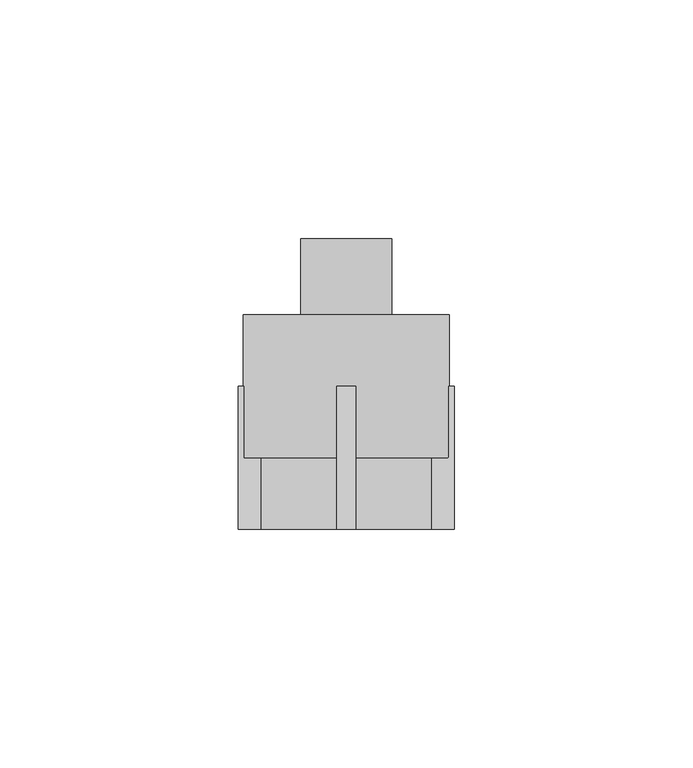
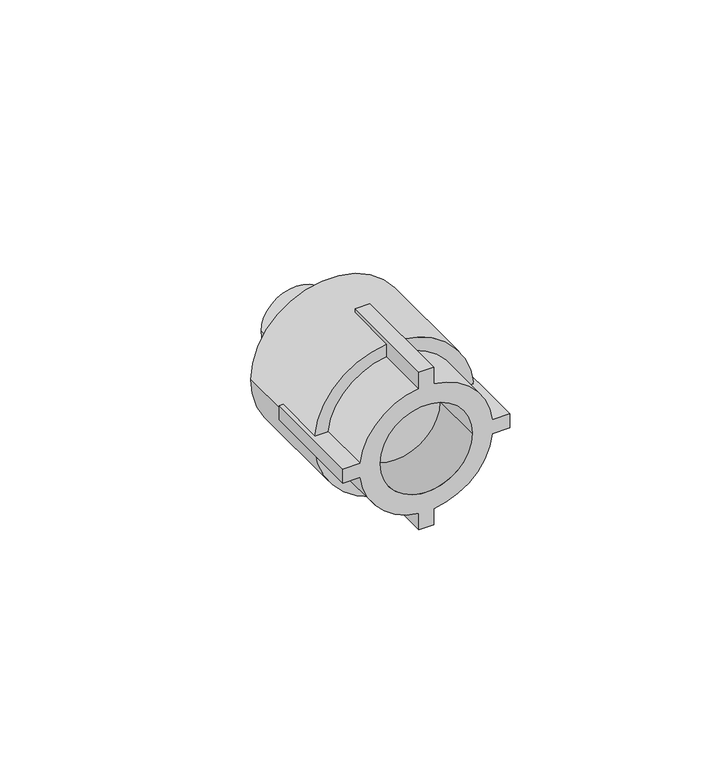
"""IFC4 building model written with IfcOpenShell, lengths in millimetres: pipe fitting geometry, EGB_VASEN_ PPR_Entronque rosca macho WXR101 : Entronque rosca macho WXR101."""

from ifc_helpers import new_model, si_unit, point, frame, origin, origin_2d, place, context, project, spatial, polyline, circle_curve, trimmed, segment, composite_curve, outline, extrude, source, transform, mapped, element, save
from ifc_brep_helpers import plane_surface, cylinder_surface, revolved_surface, advanced_brep


def pipe_fitting_a16b70e2(model_context):
    return source(origin(), model_context, "Body", "SolidModel", [
        advanced_brep(
        [(2.0, -15.0, 22.6), (-2.0, -15.0, 22.6), (-2.0, -15.0, 17.8885438), (-17.8885438, -15.0, 2.0), (-22.6, -15.0, 2.0), (-22.6, -15.0, -2.0), (-17.8885438, -15.0, -2.0), (-2.0, -15.0, -17.8885438), (-2.0, -15.0, -22.6), (2.0, -15.0, -22.6), (2.0, -15.0, -17.8885438), (17.8885438, -15.0, -2.0), (22.6, -15.0, -2.0), (22.6, -15.0, 2.0), (17.8885438, -15.0, 2.0), (2.0, -15.0, 17.8885438), (-12.5, -15.0, 0.0), (12.5, -15.0, 0.0), (-2.0, 15.0, 22.6), (2.0, 15.0, 22.6), (2.0, 15.0, 21.5072081), (-2.0, 15.0, 21.5072081), (2.0, 15.0, -22.6), (-2.0, 15.0, -22.6), (-2.0, 15.0, -21.5072081), (2.0, 15.0, -21.5072081), (22.6, 15.0, 2.0), (22.6, 15.0, -2.0), (21.5072081, 15.0, -2.0), (21.6, 15.0, 0.0), (21.5072081, 15.0, 2.0), (-22.6, 15.0, -2.0), (-22.6, 15.0, 2.0), (-21.5072081, 15.0, 2.0), (-21.6, 15.0, 0.0), (-21.5072081, 15.0, -2.0), (2.0, 0.0, 17.8885438), (2.0, 0.0, 21.5072081), (-2.0, 0.0, 21.5072081), (-2.0, 0.0, 17.8885438), (2.0, 0.0, -21.5072081), (2.0, 0.0, -17.8885438), (-2.0, 0.0, -17.8885438), (-2.0, 0.0, -21.5072081), (17.8885438, 0.0, -2.0), (21.5072081, 0.0, -2.0), (21.5072081, 0.0, 2.0), (17.8885438, 0.0, 2.0), (-21.5072081, 0.0, -2.0), (-17.8885438, 0.0, -2.0), (-17.8885438, 0.0, 2.0), (-21.5072081, 0.0, 2.0), (-12.5, 0.0, 0.0), (12.5, 0.0, 0.0), (-21.6, 30.0, 0.0), (21.6, 30.0, 0.0)],
        [
            (0, 1),
            (1, 2),
            (2, 3, circle_curve(frame((0.0, -15.0, 0.0), z_axis=(0.0, -1.0, 0.0), x_axis=(1.0, 0.0, 0.0)), 18.0)),
            (3, 4),
            (4, 5),
            (5, 6),
            (6, 7, circle_curve(frame((0.0, -15.0, 0.0), z_axis=(0.0, -1.0, 0.0), x_axis=(1.0, 0.0, 0.0)), 18.0)),
            (7, 8),
            (8, 9),
            (9, 10),
            (10, 11, circle_curve(frame((0.0, -15.0, 0.0), z_axis=(0.0, -1.0, 0.0), x_axis=(1.0, 0.0, 0.0)), 18.0)),
            (11, 12),
            (12, 13),
            (13, 14),
            (14, 15, circle_curve(frame((0.0, -15.0, 0.0), z_axis=(0.0, -1.0, 0.0), x_axis=(1.0, 0.0, 0.0)), 18.0)),
            (15, 0),
            (16, 17, circle_curve(frame((0.0, -15.0, 0.0), z_axis=(0.0, 1.0, 0.0), x_axis=(1.0, 0.0, 0.0)), 12.5)),
            (17, 16, circle_curve(frame((0.0, -15.0, 0.0), z_axis=(0.0, 1.0, 0.0), x_axis=(1.0, 0.0, 0.0)), 12.5)),
            (18, 19),
            (19, 20),
            (20, 21, circle_curve(frame((0.0, 15.0, 0.0), z_axis=(0.0, -1.0, 0.0), x_axis=(1.0, 0.0, 0.0)), 21.6)),
            (21, 18),
            (22, 23),
            (23, 24),
            (24, 25, circle_curve(frame((0.0, 15.0, 0.0), z_axis=(0.0, -1.0, 0.0), x_axis=(1.0, 0.0, 0.0)), 21.6)),
            (25, 22),
            (26, 27),
            (27, 28),
            (28, 29, circle_curve(frame((0.0, 15.0, 0.0), z_axis=(0.0, -1.0, 0.0), x_axis=(1.0, 0.0, 0.0)), 21.6)),
            (29, 30, circle_curve(frame((0.0, 15.0, 0.0), z_axis=(0.0, -1.0, 0.0), x_axis=(1.0, 0.0, 0.0)), 21.6)),
            (30, 26),
            (31, 32),
            (32, 33),
            (33, 34, circle_curve(frame((0.0, 15.0, 0.0), z_axis=(0.0, -1.0, 0.0), x_axis=(1.0, 0.0, 0.0)), 21.6)),
            (34, 35, circle_curve(frame((0.0, 15.0, 0.0), z_axis=(0.0, -1.0, 0.0), x_axis=(1.0, 0.0, 0.0)), 21.6)),
            (35, 31),
            (19, 0),
            (15, 36),
            (36, 37),
            (37, 20),
            (18, 1),
            (21, 38),
            (38, 39),
            (39, 2),
            (8, 23),
            (22, 9),
            (25, 40),
            (40, 41),
            (41, 10),
            (7, 42),
            (42, 43),
            (43, 24),
            (27, 12),
            (11, 44),
            (44, 45),
            (45, 28),
            (26, 13),
            (30, 46),
            (46, 47),
            (47, 14),
            (5, 31),
            (35, 48),
            (48, 49),
            (49, 6),
            (32, 4),
            (3, 50),
            (50, 51),
            (51, 33),
            (49, 42, circle_curve(frame((0.0, 0.0, 0.0), z_axis=(0.0, -1.0, 0.0), x_axis=(1.0, 0.0, 0.0)), 18.0)),
            (41, 44, circle_curve(frame((0.0, 0.0, 0.0), z_axis=(0.0, -1.0, 0.0), x_axis=(1.0, 0.0, 0.0)), 18.0)),
            (39, 50, circle_curve(frame((0.0, 0.0, 0.0), z_axis=(0.0, -1.0, 0.0), x_axis=(1.0, 0.0, 0.0)), 18.0)),
            (47, 36, circle_curve(frame((0.0, 0.0, 0.0), z_axis=(0.0, -1.0, 0.0), x_axis=(1.0, 0.0, 0.0)), 18.0)),
            (16, 52),
            (52, 53, circle_curve(frame((0.0, 0.0, 0.0), z_axis=(0.0, 1.0, 0.0), x_axis=(1.0, 0.0, 0.0)), 12.5)),
            (53, 17),
            (53, 52, circle_curve(frame((0.0, 0.0, 0.0), z_axis=(0.0, 1.0, 0.0), x_axis=(1.0, 0.0, 0.0)), 12.5)),
            (40, 45, circle_curve(frame((0.0, 0.0, 0.0), z_axis=(0.0, -1.0, 0.0), x_axis=(1.0, 0.0, 0.0)), 21.6)),
            (48, 43, circle_curve(frame((0.0, 0.0, 0.0), z_axis=(0.0, -1.0, 0.0), x_axis=(1.0, 0.0, 0.0)), 21.6)),
            (46, 37, circle_curve(frame((0.0, 0.0, 0.0), z_axis=(0.0, -1.0, 0.0), x_axis=(1.0, 0.0, 0.0)), 21.6)),
            (38, 51, circle_curve(frame((0.0, 0.0, 0.0), z_axis=(0.0, -1.0, 0.0), x_axis=(1.0, 0.0, 0.0)), 21.6)),
            (54, 55, circle_curve(frame((0.0, 30.0, 0.0), z_axis=(0.0, 1.0, 0.0), x_axis=(1.0, 0.0, 0.0)), 21.6)),
            (55, 54, circle_curve(frame((0.0, 30.0, 0.0), z_axis=(0.0, 1.0, 0.0), x_axis=(1.0, 0.0, 0.0)), 21.6)),
            (55, 29),
            (34, 54),
        ],
        [
            plane_surface(frame((0.0, -15.0, 0.0), z_axis=(0.0, -1.0, 0.0), x_axis=(0.0, 0.0, 1.0))),
            plane_surface(frame((0.0, 15.0, 0.0), z_axis=(0.0, 1.0, 0.0), x_axis=(0.0, 0.0, 1.0))),
            plane_surface(frame((2.0, -15.0, 17.0), z_axis=(1.0, 0.0, 0.0), x_axis=(0.0, 1.0, 0.0))),
            plane_surface(frame((2.0, -15.0, 22.6), z_axis=(0.0, 0.0, 1.0), x_axis=(0.0, 1.0, 0.0))),
            plane_surface(frame((-2.0, -15.0, 22.6), z_axis=(-1.0, 0.0, 0.0), x_axis=(0.0, 1.0, 0.0))),
            plane_surface(frame((-2.0, -15.0, -22.6), z_axis=(0.0, 0.0, -1.0), x_axis=(0.0, 1.0, 0.0))),
            plane_surface(frame((2.0, -15.0, -22.6), z_axis=(1.0, 0.0, 0.0), x_axis=(0.0, 1.0, 0.0))),
            plane_surface(frame((-2.0, -15.0, -17.0), z_axis=(-1.0, 0.0, 0.0), x_axis=(0.0, 1.0, 0.0))),
            plane_surface(frame((17.0, -15.0, -2.0), z_axis=(0.0, 0.0, -1.0), x_axis=(0.0, 1.0, 0.0))),
            plane_surface(frame((22.6, -15.0, -2.0), z_axis=(1.0, 0.0, 0.0), x_axis=(0.0, 1.0, 0.0))),
            plane_surface(frame((22.6, -15.0, 2.0), z_axis=(0.0, 0.0, 1.0), x_axis=(0.0, 1.0, 0.0))),
            plane_surface(frame((-22.6, -15.0, -2.0), z_axis=(0.0, 0.0, -1.0), x_axis=(0.0, 1.0, 0.0))),
            plane_surface(frame((-17.0, -15.0, 2.0), z_axis=(0.0, 0.0, 1.0), x_axis=(0.0, 1.0, 0.0))),
            plane_surface(frame((-22.6, -15.0, 2.0), z_axis=(-1.0, 0.0, 0.0), x_axis=(0.0, 1.0, 0.0))),
            cylinder_surface(frame((0.0, 0.0, 0.0), z_axis=(0.0, -1.0, 0.0), x_axis=(1.0, 0.0, 0.0)), 18.0),
            revolved_surface(polyline([(12.5, 0.0, 0.0), (12.5, -15.0, 0.0)]), (0.0, 0.0, 0.0), (0.0, 1.0, 0.0)),
            plane_surface(frame((21.6, 0.0, 0.0), z_axis=(0.0, -1.0, 0.0), x_axis=(0.0, 0.0, 1.0))),
            plane_surface(frame((21.6, 30.0, 0.0), z_axis=(0.0, 1.0, 0.0), x_axis=(0.0, 0.0, -1.0))),
            cylinder_surface(frame((0.0, 30.0, 0.0), z_axis=(0.0, -1.0, 0.0), x_axis=(1.0, 0.0, 0.0)), 21.6),
        ],
        [
            (0, [[1, 2, 3, 4, 5, 6, 7, 8, 9, 10, 11, 12, 13, 14, 15, 16], [17, 18]]),
            (1, [[19, 20, 21, 22]]),
            (1, [[23, 24, 25, 26]]),
            (1, [[27, 28, 29, 30, 31]]),
            (1, [[32, 33, 34, 35, 36]]),
            (2, [[37, -16, 38, 39, 40, -20]]),
            (3, [[-1, -37, -19, 41]]),
            (4, [[-41, -22, 42, 43, 44, -2]]),
            (5, [[-9, 45, -23, 46]]),
            (6, [[-46, -26, 47, 48, 49, -10]]),
            (7, [[-45, -8, 50, 51, 52, -24]]),
            (8, [[53, -12, 54, 55, 56, -28]]),
            (9, [[-13, -53, -27, 57]]),
            (10, [[-57, -31, 58, 59, 60, -14]]),
            (11, [[61, -36, 62, 63, 64, -6]]),
            (12, [[65, -4, 66, 67, 68, -33]]),
            (13, [[-5, -65, -32, -61]]),
            (14, [[-7, -64, 69, -50]]),
            (14, [[-11, -49, 70, -54]]),
            (14, [[-3, -44, 71, -66]]),
            (14, [[-15, -60, 72, -38]]),
            (15, [[-17, 73, 74, 75]]),
            (15, [[-18, -75, 76, -73]]),
            (16, [[-74, -76]]),
            (16, [[77, -55, -70, -48]]),
            (16, [[78, -51, -69, -63]]),
            (16, [[79, -39, -72, -59]]),
            (16, [[80, -67, -71, -43]]),
            (17, [[81, 82]]),
            (18, [[-82, 83, -29, -56, -77, -47, -25, -52, -78, -62, -35, 84]]),
            (18, [[-81, -84, -34, -68, -80, -42, -21, -40, -79, -58, -30, -83]]),
        ],
    ),
        extrude(outline(composite_curve([segment(trimmed(circle_curve(origin_2d(), 9.525), [point((0.0, -9.525))], [point((0.0, 9.525))], False, "CARTESIAN"), True, "CONTINUOUS"), segment(trimmed(circle_curve(origin_2d(), 9.525), [point((0.0, 9.525))], [point((0.0, -9.525))], False, "CARTESIAN"), True, "CONTINUOUS")], self_intersect=False)), frame((0.0, 15.0, 0.0), z_axis=(0.0, 1.0, 0.0), x_axis=(0.0, 0.0, 1.0)), (0.0, 0.0, 1.0), 31.0),
    ])


if __name__ == "__main__":
    model = new_model("IFC4")
    model_context = context("Model", 3, world=origin())
    ifc_project = project(units=[si_unit("LENGTHUNIT", "METRE", prefix="MILLI")], contexts=[model_context])
    site = spatial("IfcSite", under=ifc_project)
    building = spatial("IfcBuilding", under=site)
    placement = place(None, origin())
    pipe_fitting_shape = pipe_fitting_a16b70e2(model_context)
    element("IfcPipeFitting", 1, ObjectType="EGB_VASEN_ PPR_Entronque rosca macho WXR101 : Entronque rosca macho WXR101", at=placement, inside=building, context=model_context, shape_type="MappedRepresentation", body=[
        mapped(pipe_fitting_shape, transform((0.0, 0.0, 0.0), x_axis=(1.0, 0.0, 0.0), y_axis=(0.0, 1.0, 0.0), z_axis=(0.0, 0.0, 1.0))),
    ])
    save(model, "model.ifc")
